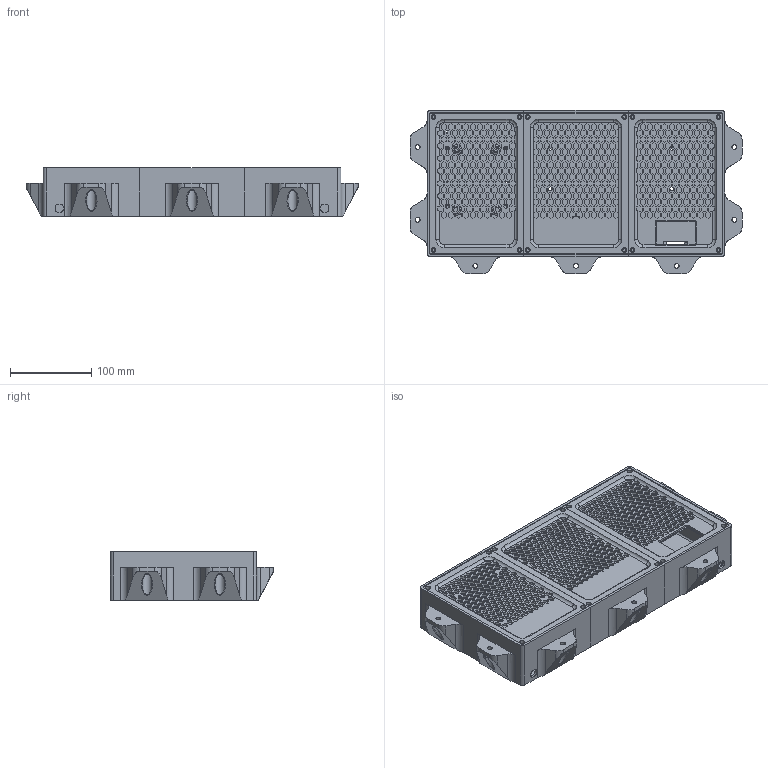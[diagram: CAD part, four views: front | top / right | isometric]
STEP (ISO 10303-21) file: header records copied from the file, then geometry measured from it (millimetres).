
FILE_DESCRIPTION(/* description */ (''),/* implementation_level */ '2;1');
FILE_NAME(/* name */ '/Users/benstibal/Downloads/Voron Master Case.step',/* time_stamp */ '2017-11-09T23:02:25-08:00',/* author */ ('bhstibal'),/* organization */ (''),/* preprocessor_version */ 'ST-DEVELOPER v16.13',/* originating_system */ 'Autodesk Translation Framework v6.5.0.72',/* authorisation */ '');
FILE_SCHEMA (('AUTOMOTIVE_DESIGN { 1 0 10303 214 3 1 1 }'));
Products named in the file (1): Voron Master Case
Bounding box: 409 x 201 x 60 mm (x, y, z)
Volume: 767001.9 mm3; surface area: 416712.7 mm2
Topology: 6 solids, 6 shells, 3493 faces, 10340 edges, 6873 vertices
Faces by surface type: plane 3201, cylinder 212, torus 57, sphere 16, bspline 7
Full cylindrical faces by diameter (mm): 2.5 x6, 3.5 x8, 3.75 x24, 4 x10, 5 x4, 6 x27, 9 x2, 12 x7
Entity records: 118086 total; most frequent: CARTESIAN_POINT 21803, ORIENTED_EDGE 20680, DIRECTION 17987, EDGE_CURVE 10340, LINE 9635, VECTOR 9635, VERTEX_POINT 6873, EDGE_LOOP 4607
